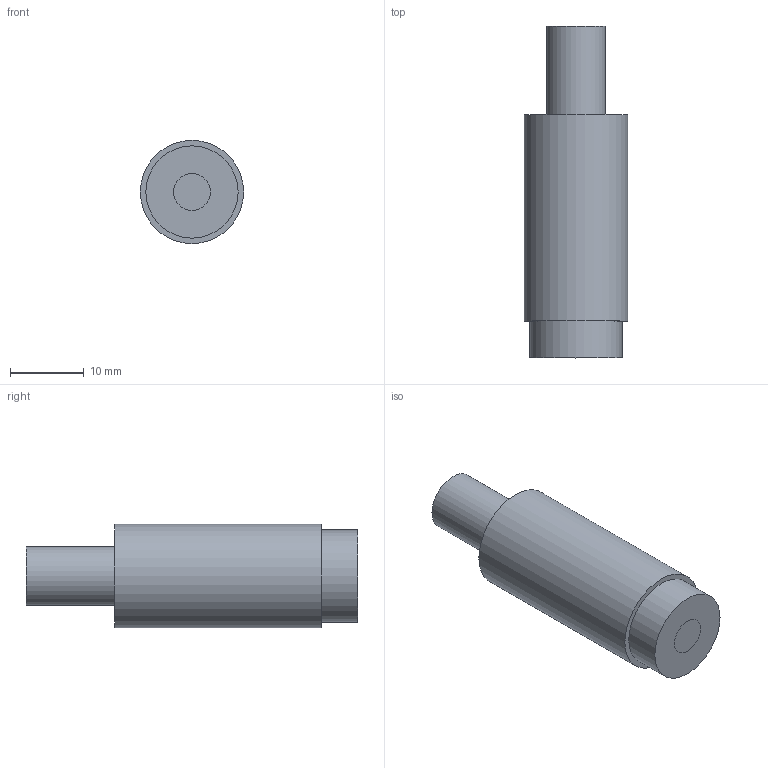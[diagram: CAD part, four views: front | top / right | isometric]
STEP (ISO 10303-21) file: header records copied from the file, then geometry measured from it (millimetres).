
FILE_DESCRIPTION(/* description */ (''),/* implementation_level */ '2;1');
FILE_NAME(/* name */ '//sv004/特品事業部/特品共通フォルダ/☆社外用データテスト/01_製品関連/0121_ライトガイド関連/3D図面/A 5L 共通 照射部.step',/* time_stamp */ '2022-09-27T14:31:58+09:00',/* author */ (''),/* organization */ (''),/* preprocessor_version */ 'ST-DEVELOPER v19',/* originating_system */ 'Autodesk Translation Framework v11.7.0.108',/* authorisation */ '');
FILE_SCHEMA (('AUTOMOTIVE_DESIGN { 1 0 10303 214 3 1 1 }'));
Length unit declared in the file: millimetre
Products named in the file (1): A 5L 共通 照射部
Bounding box: 14 x 45 x 14 mm (x, y, z)
Volume: 6312.4 mm3; surface area: 3068.2 mm2
Topology: 3 solids, 3 shells, 12 faces, 15 edges, 10 vertices
Faces by surface type: plane 7, cylinder 5
Full cylindrical faces by diameter (mm): 5 x2, 8 x1, 12.5 x1, 14 x1
Entity records: 284 total; most frequent: DIRECTION 51, CARTESIAN_POINT 38, ORIENTED_EDGE 30, AXIS2_PLACEMENT_3D 23, EDGE_LOOP 15, EDGE_CURVE 15, FACE_OUTER_BOUND 12, ADVANCED_FACE 12
